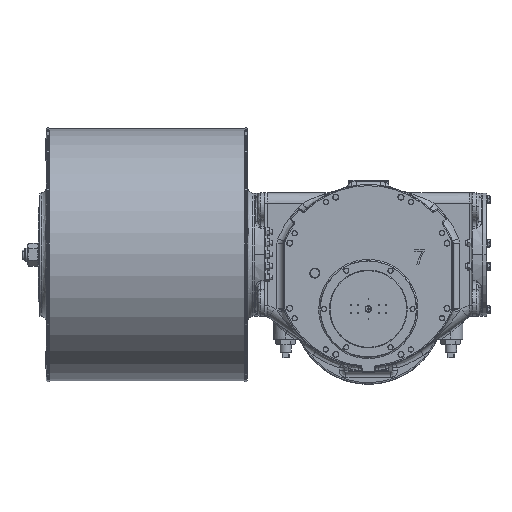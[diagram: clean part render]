
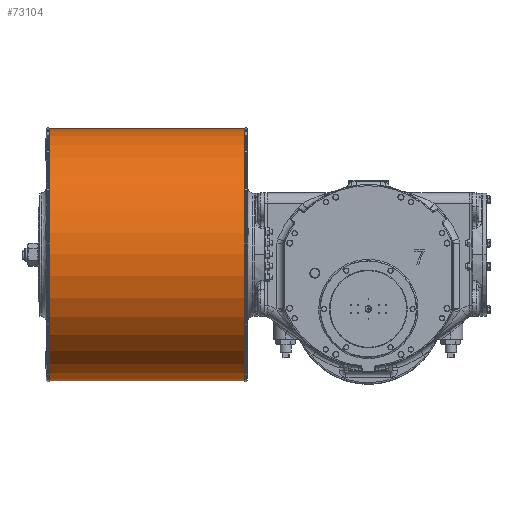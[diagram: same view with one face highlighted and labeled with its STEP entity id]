
A CAD part, top view. The second image highlights one B-rep face of the part: STEP entity #73104.
In plain terms, the highlighted cylindrical face has radius 470 mm (diameter 940 mm), a partial arc.
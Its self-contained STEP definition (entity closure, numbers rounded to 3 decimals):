
#6630 = CARTESIAN_POINT ( 'NONE',  ( -461., 203., 168. ) ) ;
#8707 = DIRECTION ( 'NONE',  ( -1., 0., 0. ) ) ;
#15972 = ORIENTED_EDGE ( 'NONE', *, *, #22540, .F. ) ;
#16447 = DIRECTION ( 'NONE',  ( 0., -1., 0. ) ) ;
#16619 = VERTEX_POINT ( 'NONE', #109385 ) ;
#18549 = VERTEX_POINT ( 'NONE', #22524 ) ;
#22524 = CARTESIAN_POINT ( 'NONE',  ( -1191., 673., 168. ) ) ;
#22540 = EDGE_CURVE ( 'NONE', #63913, #34225, #35194, .T. ) ;
#23709 = CARTESIAN_POINT ( 'NONE',  ( -1191., -267., 168. ) ) ;
#24498 = FACE_OUTER_BOUND ( 'NONE', #103658, .T. ) ;
#26186 = DIRECTION ( 'NONE',  ( 0., -1., 0. ) ) ;
#34225 = VERTEX_POINT ( 'NONE', #23709 ) ;
#35194 = LINE ( 'NONE', #106397, #109340 ) ;
#35863 = CARTESIAN_POINT ( 'NONE',  ( -461., 673., 168. ) ) ;
#37343 = DIRECTION ( 'NONE',  ( 0., -1., 0. ) ) ;
#39566 = AXIS2_PLACEMENT_3D ( 'NONE', #6630, #85971, #16447 ) ;
#46215 = AXIS2_PLACEMENT_3D ( 'NONE', #87646, #63469, #26186 ) ;
#46507 = DIRECTION ( 'NONE',  ( -1., 0., 0. ) ) ;
#54786 = LINE ( 'NONE', #35863, #85108 ) ;
#59385 = CIRCLE ( 'NONE', #94226, 470. ) ;
#59561 = CYLINDRICAL_SURFACE ( 'NONE', #39566, 470. ) ;
#61700 = DIRECTION ( 'NONE',  ( -1., 0., 0. ) ) ;
#62547 = ORIENTED_EDGE ( 'NONE', *, *, #66409, .T. ) ;
#62790 = ORIENTED_EDGE ( 'NONE', *, *, #85437, .T. ) ;
#63469 = DIRECTION ( 'NONE',  ( 1., 0., 0. ) ) ;
#63913 = VERTEX_POINT ( 'NONE', #102612 ) ;
#66409 = EDGE_CURVE ( 'NONE', #18549, #34225, #108552, .T. ) ;
#71787 = CARTESIAN_POINT ( 'NONE',  ( -461., 203., 168. ) ) ;
#73104 = ADVANCED_FACE ( 'NONE', ( #24498 ), #59561, .T. ) ;
#77156 = ORIENTED_EDGE ( 'NONE', *, *, #100798, .T. ) ;
#85108 = VECTOR ( 'NONE', #61700, 1000. ) ;
#85437 = EDGE_CURVE ( 'NONE', #63913, #16619, #59385, .T. ) ;
#85971 = DIRECTION ( 'NONE',  ( -1., 0., 0. ) ) ;
#87646 = CARTESIAN_POINT ( 'NONE',  ( -1191., 203., 168. ) ) ;
#94226 = AXIS2_PLACEMENT_3D ( 'NONE', #71787, #46507, #37343 ) ;
#100798 = EDGE_CURVE ( 'NONE', #16619, #18549, #54786, .T. ) ;
#102612 = CARTESIAN_POINT ( 'NONE',  ( -461., -267., 168. ) ) ;
#103658 = EDGE_LOOP ( 'NONE', ( #62790, #77156, #62547, #15972 ) ) ;
#106397 = CARTESIAN_POINT ( 'NONE',  ( -461., -267., 168. ) ) ;
#108552 = CIRCLE ( 'NONE', #46215, 470. ) ;
#109340 = VECTOR ( 'NONE', #8707, 1000. ) ;
#109385 = CARTESIAN_POINT ( 'NONE',  ( -461., 673., 168. ) ) ;
